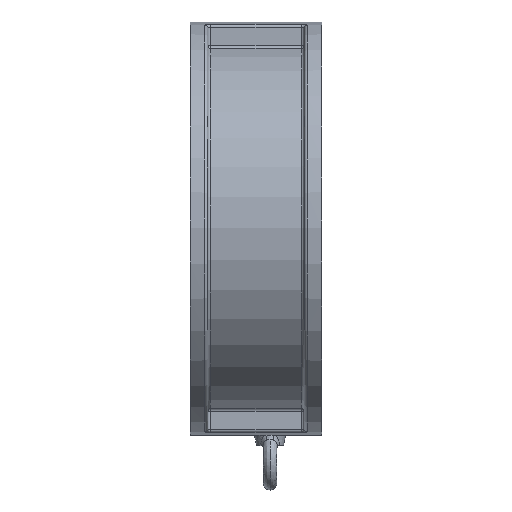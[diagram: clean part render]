
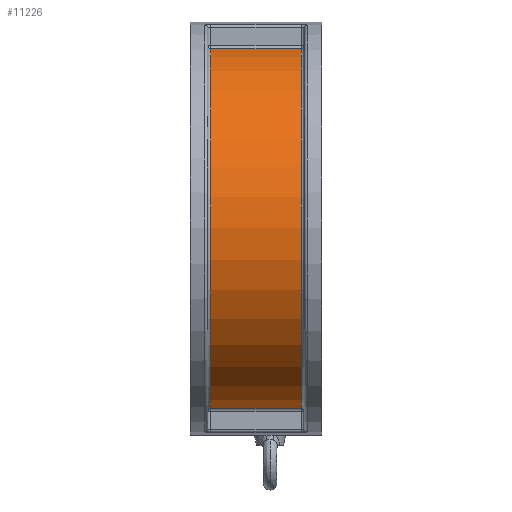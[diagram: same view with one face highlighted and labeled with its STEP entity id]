
A CAD part, top view. The second image highlights one B-rep face of the part: STEP entity #11226.
In plain terms, the highlighted cylindrical face has radius 124 mm (diameter 248 mm), a partial arc.
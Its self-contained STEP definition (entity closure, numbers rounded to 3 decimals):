
#11215 = TOROIDAL_SURFACE('',#11216,126.,2.);
#11216 = AXIS2_PLACEMENT_3D('',#11217,#11218,#11219);
#11217 = CARTESIAN_POINT('',(-19.,56.,0.));
#11218 = DIRECTION('',(1.,0.,0.));
#11219 = DIRECTION('',(0.,-1.,0.));
#11226 = ADVANCED_FACE('',(#11227),#11242,.T.);
#11227 = FACE_BOUND('',#11228,.T.);
#11228 = EDGE_LOOP('',(#11229,#11260,#11288,#11317));
#11229 = ORIENTED_EDGE('',*,*,#11230,.T.);
#11230 = EDGE_CURVE('',#11231,#11233,#11235,.T.);
#11231 = VERTEX_POINT('',#11232);
#11232 = CARTESIAN_POINT('',(-19.,177.535,24.603));
#11233 = VERTEX_POINT('',#11234);
#11234 = CARTESIAN_POINT('',(-19.,-65.535,24.603));
#11235 = SURFACE_CURVE('',#11236,(#11241,#11253),.PCURVE_S1.);
#11236 = CIRCLE('',#11237,124.);
#11237 = AXIS2_PLACEMENT_3D('',#11238,#11239,#11240);
#11238 = CARTESIAN_POINT('',(-19.,56.,0.));
#11239 = DIRECTION('',(1.,0.,0.));
#11240 = DIRECTION('',(0.,-1.,0.));
#11241 = PCURVE('',#11242,#11247);
#11242 = CYLINDRICAL_SURFACE('',#11243,124.);
#11243 = AXIS2_PLACEMENT_3D('',#11244,#11245,#11246);
#11244 = CARTESIAN_POINT('',(-8.502,56.,0.));
#11245 = DIRECTION('',(-1.,0.,0.));
#11246 = DIRECTION('',(0.,1.,0.));
#11247 = DEFINITIONAL_REPRESENTATION('',(#11248),#11252);
#11248 = LINE('',#11249,#11250);
#11249 = CARTESIAN_POINT('',(9.425,10.498));
#11250 = VECTOR('',#11251,1.);
#11251 = DIRECTION('',(-1.,0.));
#11252 = ( GEOMETRIC_REPRESENTATION_CONTEXT(2) 
PARAMETRIC_REPRESENTATION_CONTEXT() REPRESENTATION_CONTEXT('2D SPACE',''
  ) );
#11253 = PCURVE('',#11215,#11254);
#11254 = DEFINITIONAL_REPRESENTATION('',(#11255),#11259);
#11255 = LINE('',#11256,#11257);
#11256 = CARTESIAN_POINT('',(0.,3.142));
#11257 = VECTOR('',#11258,1.);
#11258 = DIRECTION('',(1.,0.));
#11259 = ( GEOMETRIC_REPRESENTATION_CONTEXT(2) 
PARAMETRIC_REPRESENTATION_CONTEXT() REPRESENTATION_CONTEXT('2D SPACE',''
  ) );
#11260 = ORIENTED_EDGE('',*,*,#11261,.T.);
#11261 = EDGE_CURVE('',#11233,#11262,#11264,.T.);
#11262 = VERTEX_POINT('',#11263);
#11263 = CARTESIAN_POINT('',(42.,-65.535,24.603));
#11264 = SURFACE_CURVE('',#11265,(#11269,#11276),.PCURVE_S1.);
#11265 = LINE('',#11266,#11267);
#11266 = CARTESIAN_POINT('',(-8.502,-65.535,
    24.603));
#11267 = VECTOR('',#11268,1.);
#11268 = DIRECTION('',(1.,0.,0.));
#11269 = PCURVE('',#11242,#11270);
#11270 = DEFINITIONAL_REPRESENTATION('',(#11271),#11275);
#11271 = LINE('',#11272,#11273);
#11272 = CARTESIAN_POINT('',(3.341,0.));
#11273 = VECTOR('',#11274,1.);
#11274 = DIRECTION('',(0.,-1.));
#11275 = ( GEOMETRIC_REPRESENTATION_CONTEXT(2) 
PARAMETRIC_REPRESENTATION_CONTEXT() REPRESENTATION_CONTEXT('2D SPACE',''
  ) );
#11276 = PCURVE('',#11277,#11282);
#11277 = CYLINDRICAL_SURFACE('',#11278,2.);
#11278 = AXIS2_PLACEMENT_3D('',#11279,#11280,#11281);
#11279 = CARTESIAN_POINT('',(-8.502,-67.495,25.));
#11280 = DIRECTION('',(-1.,0.,0.));
#11281 = DIRECTION('',(0.,1.,0.));
#11282 = DEFINITIONAL_REPRESENTATION('',(#11283),#11287);
#11283 = LINE('',#11284,#11285);
#11284 = CARTESIAN_POINT('',(0.2,0.));
#11285 = VECTOR('',#11286,1.);
#11286 = DIRECTION('',(0.,-1.));
#11287 = ( GEOMETRIC_REPRESENTATION_CONTEXT(2) 
PARAMETRIC_REPRESENTATION_CONTEXT() REPRESENTATION_CONTEXT('2D SPACE',''
  ) );
#11288 = ORIENTED_EDGE('',*,*,#11289,.T.);
#11289 = EDGE_CURVE('',#11262,#11290,#11292,.T.);
#11290 = VERTEX_POINT('',#11291);
#11291 = CARTESIAN_POINT('',(42.,177.535,24.603));
#11292 = SURFACE_CURVE('',#11293,(#11298,#11305),.PCURVE_S1.);
#11293 = CIRCLE('',#11294,124.);
#11294 = AXIS2_PLACEMENT_3D('',#11295,#11296,#11297);
#11295 = CARTESIAN_POINT('',(42.,56.,0.));
#11296 = DIRECTION('',(-1.,0.,0.));
#11297 = DIRECTION('',(0.,1.,0.));
#11298 = PCURVE('',#11242,#11299);
#11299 = DEFINITIONAL_REPRESENTATION('',(#11300),#11304);
#11300 = LINE('',#11301,#11302);
#11301 = CARTESIAN_POINT('',(0.,-50.502));
#11302 = VECTOR('',#11303,1.);
#11303 = DIRECTION('',(1.,0.));
#11304 = ( GEOMETRIC_REPRESENTATION_CONTEXT(2) 
PARAMETRIC_REPRESENTATION_CONTEXT() REPRESENTATION_CONTEXT('2D SPACE',''
  ) );
#11305 = PCURVE('',#11306,#11311);
#11306 = TOROIDAL_SURFACE('',#11307,126.,2.);
#11307 = AXIS2_PLACEMENT_3D('',#11308,#11309,#11310);
#11308 = CARTESIAN_POINT('',(42.,56.,0.));
#11309 = DIRECTION('',(-1.,0.,0.));
#11310 = DIRECTION('',(0.,1.,0.));
#11311 = DEFINITIONAL_REPRESENTATION('',(#11312),#11316);
#11312 = LINE('',#11313,#11314);
#11313 = CARTESIAN_POINT('',(0.,3.142));
#11314 = VECTOR('',#11315,1.);
#11315 = DIRECTION('',(1.,0.));
#11316 = ( GEOMETRIC_REPRESENTATION_CONTEXT(2) 
PARAMETRIC_REPRESENTATION_CONTEXT() REPRESENTATION_CONTEXT('2D SPACE',''
  ) );
#11317 = ORIENTED_EDGE('',*,*,#11318,.T.);
#11318 = EDGE_CURVE('',#11290,#11231,#11319,.T.);
#11319 = SURFACE_CURVE('',#11320,(#11324,#11331),.PCURVE_S1.);
#11320 = LINE('',#11321,#11322);
#11321 = CARTESIAN_POINT('',(-8.502,177.535,
    24.603));
#11322 = VECTOR('',#11323,1.);
#11323 = DIRECTION('',(-1.,0.,0.));
#11324 = PCURVE('',#11242,#11325);
#11325 = DEFINITIONAL_REPRESENTATION('',(#11326),#11330);
#11326 = LINE('',#11327,#11328);
#11327 = CARTESIAN_POINT('',(6.083,0.));
#11328 = VECTOR('',#11329,1.);
#11329 = DIRECTION('',(0.,1.));
#11330 = ( GEOMETRIC_REPRESENTATION_CONTEXT(2) 
PARAMETRIC_REPRESENTATION_CONTEXT() REPRESENTATION_CONTEXT('2D SPACE',''
  ) );
#11331 = PCURVE('',#11332,#11337);
#11332 = CYLINDRICAL_SURFACE('',#11333,2.);
#11333 = AXIS2_PLACEMENT_3D('',#11334,#11335,#11336);
#11334 = CARTESIAN_POINT('',(-8.502,179.495,25.));
#11335 = DIRECTION('',(-1.,0.,0.));
#11336 = DIRECTION('',(0.,1.,0.));
#11337 = DEFINITIONAL_REPRESENTATION('',(#11338),#11342);
#11338 = LINE('',#11339,#11340);
#11339 = CARTESIAN_POINT('',(2.942,0.));
#11340 = VECTOR('',#11341,1.);
#11341 = DIRECTION('',(0.,1.));
#11342 = ( GEOMETRIC_REPRESENTATION_CONTEXT(2) 
PARAMETRIC_REPRESENTATION_CONTEXT() REPRESENTATION_CONTEXT('2D SPACE',''
  ) );
